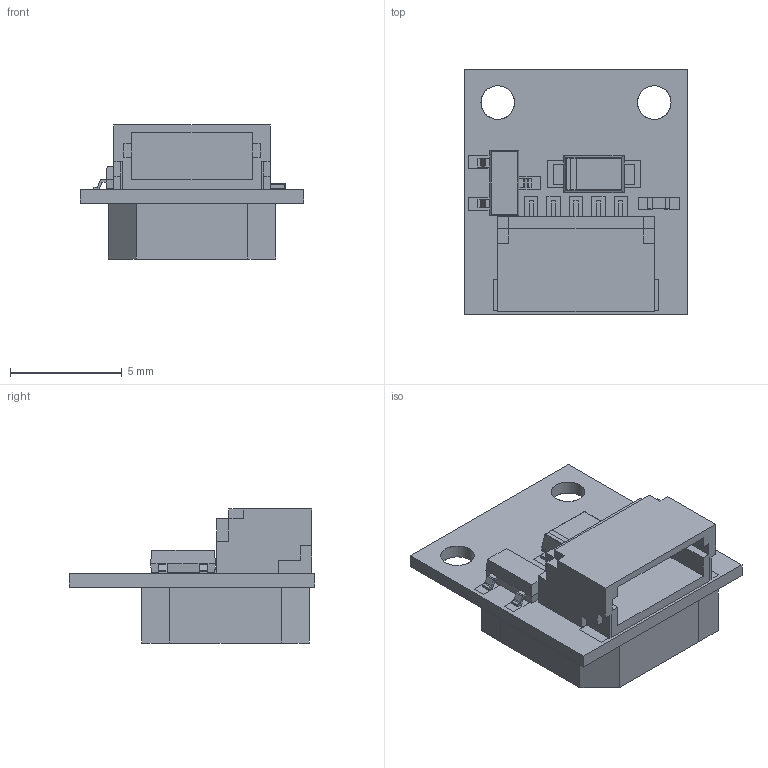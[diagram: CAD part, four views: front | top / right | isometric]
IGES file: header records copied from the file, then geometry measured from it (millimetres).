
Global section: file name: Filename.iges; native system: Open CASCADE 7.4; preprocessor: Open CASCADE IGES processor 7.4; date: 20200810.125139; units: millimetre
Bounding box: 10 x 11 x 6 mm (x, y, z)
Surface area: 1001.9 mm2 (no closed solid volume)
Topology: 0 solids, 0 shells, 528 faces, 2450 edges, 2442 vertices
Faces by surface type: plane 476, revolution 52
